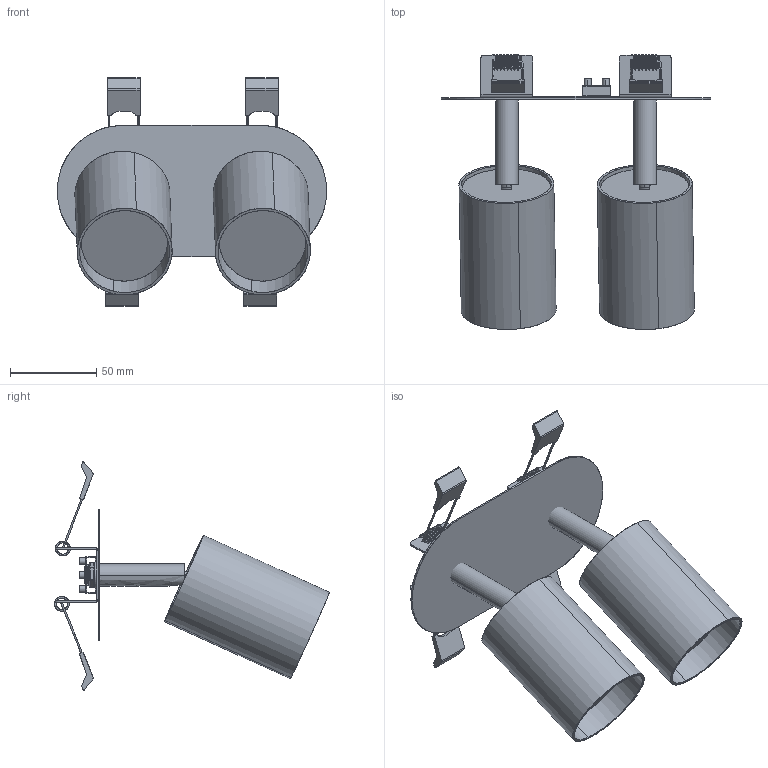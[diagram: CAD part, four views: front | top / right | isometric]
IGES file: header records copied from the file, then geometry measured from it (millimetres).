
Start section: SolidWorks IGES file using analytic representation for surfaces
Global section: file name: E:\3D lampy\Eye Fit\Eye Fit 2\EYE FIT 2 .IGS; native system: SolidWorks 2017; preprocessor: SolidWorks 2017; author: Asia; date: 180302.125451; units: millimetre
Bounding box: 156 x 159.13 x 132.15 mm (x, y, z)
Surface area: 149673.5 mm2 (no closed solid volume)
Topology: 0 solids, 0 shells, 1223 faces, 35868 edges, 41925 vertices
Faces by surface type: bspline 629, revolution 594
